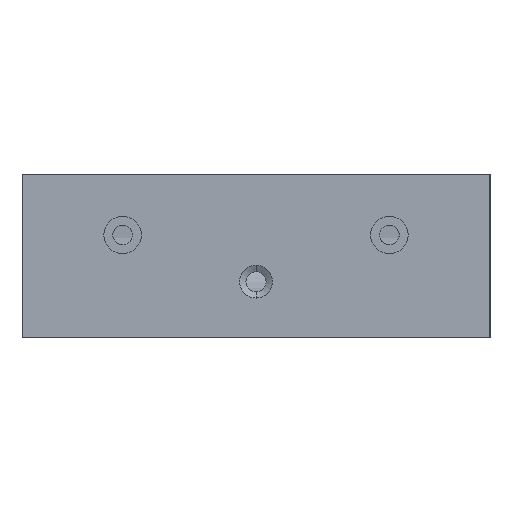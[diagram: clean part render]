
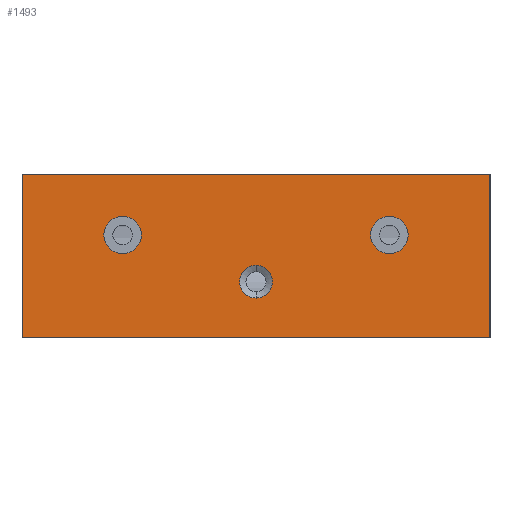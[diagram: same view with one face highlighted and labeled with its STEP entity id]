
A CAD part, left-side view. The second image highlights one B-rep face of the part: STEP entity #1493.
In plain terms, the highlighted planar face has unit normal (-1, 0, 0).
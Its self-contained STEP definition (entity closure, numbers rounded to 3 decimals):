
#34 = CARTESIAN_POINT ( 'NONE',  ( -50., -50., 17.5 ) ) ;
#67 = CARTESIAN_POINT ( 'NONE',  ( -50., 0., -9. ) ) ;
#84 = EDGE_CURVE ( 'NONE', #729, #328, #2700, .T. ) ;
#133 = AXIS2_PLACEMENT_3D ( 'NONE', #391, #1560, #2795 ) ;
#165 = CARTESIAN_POINT ( 'NONE',  ( -50., 50., 17.5 ) ) ;
#246 = EDGE_CURVE ( 'NONE', #1764, #349, #2041, .T. ) ;
#328 = VERTEX_POINT ( 'NONE', #552 ) ;
#336 = AXIS2_PLACEMENT_3D ( 'NONE', #679, #935, #435 ) ;
#349 = VERTEX_POINT ( 'NONE', #67 ) ;
#352 = DIRECTION ( 'NONE',  ( 0., 0., 1. ) ) ;
#381 = CIRCLE ( 'NONE', #336, 4. ) ;
#391 = CARTESIAN_POINT ( 'NONE',  ( -50., 28.5, 4.5 ) ) ;
#402 = VERTEX_POINT ( 'NONE', #2325 ) ;
#428 = ORIENTED_EDGE ( 'NONE', *, *, #2473, .T. ) ;
#435 = DIRECTION ( 'NONE',  ( 0., 1., 0. ) ) ;
#475 = EDGE_LOOP ( 'NONE', ( #2767, #1403, #1345, #428 ) ) ;
#477 = CARTESIAN_POINT ( 'NONE',  ( -50., -28.5, 0.5 ) ) ;
#507 = AXIS2_PLACEMENT_3D ( 'NONE', #2560, #2766, #1544 ) ;
#523 = EDGE_CURVE ( 'NONE', #2810, #1828, #1231, .T. ) ;
#524 = DIRECTION ( 'NONE',  ( 0., 1., 0. ) ) ;
#543 = DIRECTION ( 'NONE',  ( 0., -1., 0. ) ) ;
#549 = VERTEX_POINT ( 'NONE', #477 ) ;
#552 = CARTESIAN_POINT ( 'NONE',  ( -50., 28.5, 8.5 ) ) ;
#585 = ORIENTED_EDGE ( 'NONE', *, *, #246, .F. ) ;
#679 = CARTESIAN_POINT ( 'NONE',  ( -50., -28.5, 4.5 ) ) ;
#729 = VERTEX_POINT ( 'NONE', #958 ) ;
#740 = CARTESIAN_POINT ( 'NONE',  ( -50., 50., -17.5 ) ) ;
#783 = CARTESIAN_POINT ( 'NONE',  ( -50., 50., -17.5 ) ) ;
#810 = VECTOR ( 'NONE', #1182, 1000. ) ;
#813 = AXIS2_PLACEMENT_3D ( 'NONE', #3130, #1663, #1917 ) ;
#872 = PLANE ( 'NONE',  #507 ) ;
#909 = AXIS2_PLACEMENT_3D ( 'NONE', #2722, #1755, #524 ) ;
#922 = ORIENTED_EDGE ( 'NONE', *, *, #2651, .T. ) ;
#935 = DIRECTION ( 'NONE',  ( 1., 0., 0. ) ) ;
#958 = CARTESIAN_POINT ( 'NONE',  ( -50., 28.5, 0.5 ) ) ;
#1009 = CIRCLE ( 'NONE', #1841, 3.5 ) ;
#1057 = FACE_BOUND ( 'NONE', #3109, .T. ) ;
#1060 = CIRCLE ( 'NONE', #813, 4. ) ;
#1132 = CARTESIAN_POINT ( 'NONE',  ( -50., -50., 17.5 ) ) ;
#1182 = DIRECTION ( 'NONE',  ( 0., -1., 0. ) ) ;
#1186 = ORIENTED_EDGE ( 'NONE', *, *, #2151, .T. ) ;
#1223 = EDGE_CURVE ( 'NONE', #349, #1764, #1009, .T. ) ;
#1231 = LINE ( 'NONE', #2852, #810 ) ;
#1318 = CARTESIAN_POINT ( 'NONE',  ( -50., 0., -5.5 ) ) ;
#1329 = EDGE_CURVE ( 'NONE', #1400, #2113, #2950, .T. ) ;
#1345 = ORIENTED_EDGE ( 'NONE', *, *, #523, .F. ) ;
#1400 = VERTEX_POINT ( 'NONE', #740 ) ;
#1403 = ORIENTED_EDGE ( 'NONE', *, *, #1640, .F. ) ;
#1422 = CARTESIAN_POINT ( 'NONE',  ( -50., 0., -5.5 ) ) ;
#1440 = ORIENTED_EDGE ( 'NONE', *, *, #1862, .T. ) ;
#1466 = ORIENTED_EDGE ( 'NONE', *, *, #1223, .F. ) ;
#1493 = ADVANCED_FACE ( 'NONE', ( #1057, #1800, #2066, #2794 ), #872, .F. ) ;
#1544 = DIRECTION ( 'NONE',  ( 0., 1., 0. ) ) ;
#1560 = DIRECTION ( 'NONE',  ( 1., 0., 0. ) ) ;
#1577 = VECTOR ( 'NONE', #1929, 1000. ) ;
#1585 = VECTOR ( 'NONE', #2451, 1000. ) ;
#1640 = EDGE_CURVE ( 'NONE', #1828, #2113, #3159, .T. ) ;
#1663 = DIRECTION ( 'NONE',  ( 1., 0., 0. ) ) ;
#1685 = DIRECTION ( 'NONE',  ( -1., 0., 0. ) ) ;
#1720 = AXIS2_PLACEMENT_3D ( 'NONE', #1422, #1685, #2666 ) ;
#1755 = DIRECTION ( 'NONE',  ( 1., 0., 0. ) ) ;
#1764 = VERTEX_POINT ( 'NONE', #1780 ) ;
#1780 = CARTESIAN_POINT ( 'NONE',  ( -50., 0., -2. ) ) ;
#1800 = FACE_BOUND ( 'NONE', #2170, .T. ) ;
#1828 = VERTEX_POINT ( 'NONE', #1132 ) ;
#1841 = AXIS2_PLACEMENT_3D ( 'NONE', #1318, #2546, #352 ) ;
#1862 = EDGE_CURVE ( 'NONE', #402, #549, #381, .T. ) ;
#1917 = DIRECTION ( 'NONE',  ( 0., 1., 0. ) ) ;
#1929 = DIRECTION ( 'NONE',  ( 0., 0., -1. ) ) ;
#2041 = CIRCLE ( 'NONE', #1720, 3.5 ) ;
#2066 = FACE_BOUND ( 'NONE', #2249, .T. ) ;
#2113 = VERTEX_POINT ( 'NONE', #3026 ) ;
#2144 = VECTOR ( 'NONE', #543, 1000. ) ;
#2151 = EDGE_CURVE ( 'NONE', #549, #402, #1060, .T. ) ;
#2170 = EDGE_LOOP ( 'NONE', ( #2673, #922 ) ) ;
#2249 = EDGE_LOOP ( 'NONE', ( #585, #1466 ) ) ;
#2296 = CIRCLE ( 'NONE', #909, 4. ) ;
#2325 = CARTESIAN_POINT ( 'NONE',  ( -50., -28.5, 8.5 ) ) ;
#2393 = LINE ( 'NONE', #165, #1577 ) ;
#2451 = DIRECTION ( 'NONE',  ( 0., 0., -1. ) ) ;
#2473 = EDGE_CURVE ( 'NONE', #2810, #1400, #2393, .T. ) ;
#2546 = DIRECTION ( 'NONE',  ( -1., 0., 0. ) ) ;
#2560 = CARTESIAN_POINT ( 'NONE',  ( -50., 50., 17.5 ) ) ;
#2641 = CARTESIAN_POINT ( 'NONE',  ( -50., 50., 17.5 ) ) ;
#2651 = EDGE_CURVE ( 'NONE', #328, #729, #2296, .T. ) ;
#2666 = DIRECTION ( 'NONE',  ( 0., 0., 1. ) ) ;
#2673 = ORIENTED_EDGE ( 'NONE', *, *, #84, .T. ) ;
#2700 = CIRCLE ( 'NONE', #133, 4. ) ;
#2722 = CARTESIAN_POINT ( 'NONE',  ( -50., 28.5, 4.5 ) ) ;
#2766 = DIRECTION ( 'NONE',  ( 1., 0., 0. ) ) ;
#2767 = ORIENTED_EDGE ( 'NONE', *, *, #1329, .T. ) ;
#2794 = FACE_OUTER_BOUND ( 'NONE', #475, .T. ) ;
#2795 = DIRECTION ( 'NONE',  ( 0., 1., 0. ) ) ;
#2810 = VERTEX_POINT ( 'NONE', #2641 ) ;
#2852 = CARTESIAN_POINT ( 'NONE',  ( -50., 50., 17.5 ) ) ;
#2950 = LINE ( 'NONE', #783, #2144 ) ;
#3026 = CARTESIAN_POINT ( 'NONE',  ( -50., -50., -17.5 ) ) ;
#3109 = EDGE_LOOP ( 'NONE', ( #1186, #1440 ) ) ;
#3130 = CARTESIAN_POINT ( 'NONE',  ( -50., -28.5, 4.5 ) ) ;
#3159 = LINE ( 'NONE', #34, #1585 ) ;
